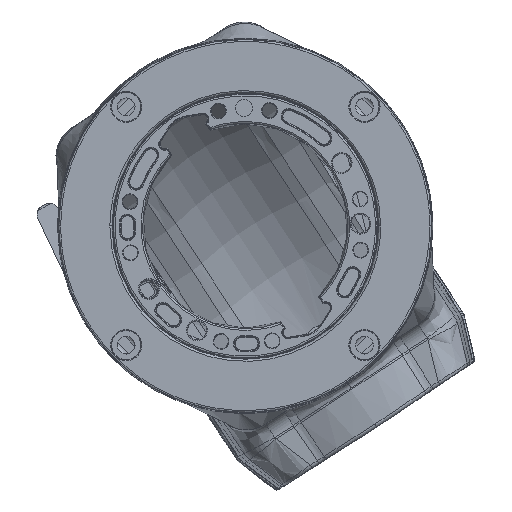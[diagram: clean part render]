
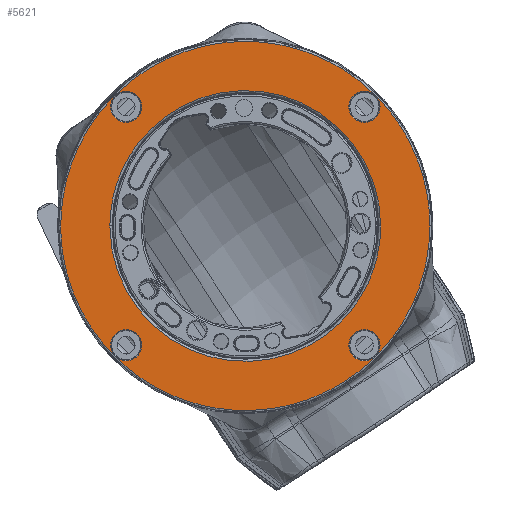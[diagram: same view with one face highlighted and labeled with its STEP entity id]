
A CAD part, front view. The second image highlights one B-rep face of the part: STEP entity #5621.
In plain terms, the highlighted planar face has unit normal (0, -1, 0) as drawn and (0, 0, -1) by its records, which use the part's own axes.
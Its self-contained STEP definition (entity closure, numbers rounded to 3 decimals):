
#1449 = VERTEX_POINT ( 'NONE', #121559 ) ;
#1726 = CARTESIAN_POINT ( 'NONE',  ( -21.848, 133.944, 101.629 ) ) ;
#3318 = EDGE_CURVE ( 'NONE', #173206, #169215, #125419, .T. ) ;
#5621 = ADVANCED_FACE ( 'NONE', ( #170793, #105255, #51802, #63829, #95445, #199800 ), #81402, .F. ) ;
#5900 = CARTESIAN_POINT ( 'NONE',  ( 90.151, 39.131, 101.629 ) ) ;
#6981 = CIRCLE ( 'NONE', #128412, 5.462 ) ;
#10896 = EDGE_CURVE ( 'NONE', #127500, #123771, #157605, .T. ) ;
#12541 = DIRECTION ( 'NONE',  ( 0., 0., -1. ) ) ;
#12699 = AXIS2_PLACEMENT_3D ( 'NONE', #163372, #70374, #56137 ) ;
#13189 = DIRECTION ( 'NONE',  ( -1., 0., 0. ) ) ;
#17118 = DIRECTION ( 'NONE',  ( 0., 0., 1. ) ) ;
#18229 = AXIS2_PLACEMENT_3D ( 'NONE', #78762, #17118, #187335 ) ;
#18939 = DIRECTION ( 'NONE',  ( 0., 0., -1. ) ) ;
#27063 = CARTESIAN_POINT ( 'NONE',  ( -21.848, -55.682, 101.629 ) ) ;
#31695 = CARTESIAN_POINT ( 'NONE',  ( 72.965, 39.131, 101.629 ) ) ;
#33394 = DIRECTION ( 'NONE',  ( 0., 0., -1. ) ) ;
#34546 = VERTEX_POINT ( 'NONE', #166533 ) ;
#41991 = ORIENTED_EDGE ( 'NONE', *, *, #110803, .F. ) ;
#42035 = DIRECTION ( 'NONE',  ( 0., 0., -1. ) ) ;
#48825 = ORIENTED_EDGE ( 'NONE', *, *, #10896, .F. ) ;
#51802 = FACE_BOUND ( 'NONE', #114794, .T. ) ;
#56137 = DIRECTION ( 'NONE',  ( -1., 0., 0. ) ) ;
#56530 = VERTEX_POINT ( 'NONE', #98559 ) ;
#57955 = ORIENTED_EDGE ( 'NONE', *, *, #109718, .F. ) ;
#59232 = VERTEX_POINT ( 'NONE', #144532 ) ;
#59699 = CARTESIAN_POINT ( 'NONE',  ( -39.035, 39.131, 101.629 ) ) ;
#63829 = FACE_BOUND ( 'NONE', #72147, .T. ) ;
#64667 = CARTESIAN_POINT ( 'NONE',  ( 72.965, 133.944, 101.629 ) ) ;
#64985 = DIRECTION ( 'NONE',  ( -1., 0., 0. ) ) ;
#69451 = VERTEX_POINT ( 'NONE', #140591 ) ;
#70374 = DIRECTION ( 'NONE',  ( 0., 0., -1. ) ) ;
#70789 = AXIS2_PLACEMENT_3D ( 'NONE', #134950, #42035, #121997 ) ;
#71605 = CARTESIAN_POINT ( 'NONE',  ( 90.151, 39.131, 101.629 ) ) ;
#72147 = EDGE_LOOP ( 'NONE', ( #166986, #134734 ) ) ;
#72659 = CARTESIAN_POINT ( 'NONE',  ( -39.035, 168.317, 101.629 ) ) ;
#75255 = CARTESIAN_POINT ( 'NONE',  ( 72.965, 39.131, 101.629 ) ) ;
#75578 = CIRCLE ( 'NONE', #95243, 5.462 ) ;
#78762 = CARTESIAN_POINT ( 'NONE',  ( -39.81, -26.237, 101.629 ) ) ;
#79618 = CARTESIAN_POINT ( 'NONE',  ( 72.965, 39.131, 101.629 ) ) ;
#79826 = CARTESIAN_POINT ( 'NONE',  ( -21.623, 80.85, 101.629 ) ) ;
#81402 = PLANE ( 'NONE',  #18229 ) ;
#81722 = EDGE_LOOP ( 'NONE', ( #187192, #111461 ) ) ;
#84115 = DIRECTION ( 'NONE',  ( -1., 0., 0. ) ) ;
#87761 = ORIENTED_EDGE ( 'NONE', *, *, #107635, .F. ) ;
#88214 = EDGE_LOOP ( 'NONE', ( #146674, #169625 ) ) ;
#91475 = CARTESIAN_POINT ( 'NONE',  ( -16.161, -2.588, 101.629 ) ) ;
#95243 = AXIS2_PLACEMENT_3D ( 'NONE', #124484, #126470, #84115 ) ;
#95445 = FACE_BOUND ( 'NONE', #81722, .T. ) ;
#98559 = CARTESIAN_POINT ( 'NONE',  ( -10.699, 80.85, 101.629 ) ) ;
#99920 = CIRCLE ( 'NONE', #101038, 5.462 ) ;
#101038 = AXIS2_PLACEMENT_3D ( 'NONE', #153456, #33394, #137879 ) ;
#104414 = EDGE_CURVE ( 'NONE', #160440, #192868, #180197, .T. ) ;
#105255 = FACE_BOUND ( 'NONE', #182928, .T. ) ;
#105933 = CARTESIAN_POINT ( 'NONE',  ( 90.151, 39.131, 101.629 ) ) ;
#107635 = EDGE_CURVE ( 'NONE', #34546, #1449, #185752, .T. ) ;
#108240 = CARTESIAN_POINT ( 'NONE',  ( -21.848, 39.131, 101.629 ) ) ;
#108877 = CARTESIAN_POINT ( 'NONE',  ( -39.035, 39.131, 101.629 ) ) ;
#109237 = CARTESIAN_POINT ( 'NONE',  ( 67.278, 80.85, 101.629 ) ) ;
#109718 = EDGE_CURVE ( 'NONE', #56530, #177118, #173467, .T. ) ;
#110803 = EDGE_CURVE ( 'NONE', #123771, #127500, #151163, .T. ) ;
#111461 = ORIENTED_EDGE ( 'NONE', *, *, #176518, .F. ) ;
#112252 = ORIENTED_EDGE ( 'NONE', *, *, #197979, .F. ) ;
#114794 = EDGE_LOOP ( 'NONE', ( #168087, #87761 ) ) ;
#118495 = CARTESIAN_POINT ( 'NONE',  ( 90.151, -90.055, 101.629 ) ) ;
#118786 =( BOUNDED_CURVE ( )  B_SPLINE_CURVE ( 3, ( #105933, #120857, #72659, #59699 ),
 .UNSPECIFIED., .F., .F. ) 
 B_SPLINE_CURVE_WITH_KNOTS ( ( 4, 4 ),
 ( 0., 1. ),
 .UNSPECIFIED. ) 
 CURVE ( )  GEOMETRIC_REPRESENTATION_ITEM ( )  RATIONAL_B_SPLINE_CURVE ( ( 0.957, 0.319, 0.319, 0.957 ) ) 
 REPRESENTATION_ITEM ( '' )  );
#120857 = CARTESIAN_POINT ( 'NONE',  ( 90.151, 168.317, 101.629 ) ) ;
#121559 = CARTESIAN_POINT ( 'NONE',  ( -21.623, -2.588, 101.629 ) ) ;
#121997 = DIRECTION ( 'NONE',  ( -1., 0., 0. ) ) ;
#122754 = CARTESIAN_POINT ( 'NONE',  ( 72.965, -55.682, 101.629 ) ) ;
#123771 = VERTEX_POINT ( 'NONE', #31695 ) ;
#124314 = EDGE_CURVE ( 'NONE', #59232, #69451, #140082, .T. ) ;
#124484 = CARTESIAN_POINT ( 'NONE',  ( -16.161, 80.85, 101.629 ) ) ;
#125419 =( BOUNDED_CURVE ( )  B_SPLINE_CURVE ( 3, ( #164613, #149740, #118495, #71605 ),
 .UNSPECIFIED., .F., .F. ) 
 B_SPLINE_CURVE_WITH_KNOTS ( ( 4, 4 ),
 ( 0., 1. ),
 .UNSPECIFIED. ) 
 CURVE ( )  GEOMETRIC_REPRESENTATION_ITEM ( )  RATIONAL_B_SPLINE_CURVE ( ( 0.957, 0.319, 0.319, 0.957 ) ) 
 REPRESENTATION_ITEM ( '' )  );
#125943 = EDGE_CURVE ( 'NONE', #1449, #34546, #6981, .T. ) ;
#126470 = DIRECTION ( 'NONE',  ( 0., 0., -1. ) ) ;
#127500 = VERTEX_POINT ( 'NONE', #131014 ) ;
#128412 = AXIS2_PLACEMENT_3D ( 'NONE', #91475, #185070, #170823 ) ;
#131014 = CARTESIAN_POINT ( 'NONE',  ( -21.848, 39.131, 101.629 ) ) ;
#133507 = CARTESIAN_POINT ( 'NONE',  ( 61.816, -2.588, 101.629 ) ) ;
#134734 = ORIENTED_EDGE ( 'NONE', *, *, #169096, .F. ) ;
#134950 = CARTESIAN_POINT ( 'NONE',  ( -16.161, -2.588, 101.629 ) ) ;
#137879 = DIRECTION ( 'NONE',  ( -1., 0., 0. ) ) ;
#140082 = CIRCLE ( 'NONE', #146640, 5.462 ) ;
#140591 = CARTESIAN_POINT ( 'NONE',  ( 72.739, 80.85, 101.629 ) ) ;
#144492 = AXIS2_PLACEMENT_3D ( 'NONE', #166013, #182262, #199168 ) ;
#144532 = CARTESIAN_POINT ( 'NONE',  ( 61.816, 80.85, 101.629 ) ) ;
#144681 = AXIS2_PLACEMENT_3D ( 'NONE', #168447, #12541, #13189 ) ;
#146640 = AXIS2_PLACEMENT_3D ( 'NONE', #109237, #18939, #64985 ) ;
#146674 = ORIENTED_EDGE ( 'NONE', *, *, #148708, .F. ) ;
#148708 = EDGE_CURVE ( 'NONE', #169215, #173206, #118786, .T. ) ;
#149740 = CARTESIAN_POINT ( 'NONE',  ( -39.035, -90.055, 101.629 ) ) ;
#149876 = CARTESIAN_POINT ( 'NONE',  ( -21.848, 39.131, 101.629 ) ) ;
#151163 =( BOUNDED_CURVE ( )  B_SPLINE_CURVE ( 3, ( #75255, #122754, #27063, #149876 ),
 .UNSPECIFIED., .F., .T. ) 
 B_SPLINE_CURVE_WITH_KNOTS ( ( 4, 4 ),
 ( 0., 1. ),
 .UNSPECIFIED. ) 
 CURVE ( )  GEOMETRIC_REPRESENTATION_ITEM ( )  RATIONAL_B_SPLINE_CURVE ( ( 0.957, 0.319, 0.319, 0.957 ) ) 
 REPRESENTATION_ITEM ( '' )  );
#153456 = CARTESIAN_POINT ( 'NONE',  ( 67.278, 80.85, 101.629 ) ) ;
#157605 =( BOUNDED_CURVE ( )  B_SPLINE_CURVE ( 3, ( #108240, #1726, #64667, #79618 ),
 .UNSPECIFIED., .F., .T. ) 
 B_SPLINE_CURVE_WITH_KNOTS ( ( 4, 4 ),
 ( 0., 1. ),
 .UNSPECIFIED. ) 
 CURVE ( )  GEOMETRIC_REPRESENTATION_ITEM ( )  RATIONAL_B_SPLINE_CURVE ( ( 0.957, 0.319, 0.319, 0.957 ) ) 
 REPRESENTATION_ITEM ( '' )  );
#158237 = CARTESIAN_POINT ( 'NONE',  ( 72.739, -2.588, 101.629 ) ) ;
#160440 = VERTEX_POINT ( 'NONE', #133507 ) ;
#163372 = CARTESIAN_POINT ( 'NONE',  ( -16.161, 80.85, 101.629 ) ) ;
#164216 = CIRCLE ( 'NONE', #144681, 5.462 ) ;
#164613 = CARTESIAN_POINT ( 'NONE',  ( -39.035, 39.131, 101.629 ) ) ;
#166013 = CARTESIAN_POINT ( 'NONE',  ( 67.278, -2.588, 101.629 ) ) ;
#166533 = CARTESIAN_POINT ( 'NONE',  ( -10.699, -2.588, 101.629 ) ) ;
#166986 = ORIENTED_EDGE ( 'NONE', *, *, #104414, .F. ) ;
#168087 = ORIENTED_EDGE ( 'NONE', *, *, #125943, .F. ) ;
#168447 = CARTESIAN_POINT ( 'NONE',  ( 67.278, -2.588, 101.629 ) ) ;
#169096 = EDGE_CURVE ( 'NONE', #192868, #160440, #164216, .T. ) ;
#169215 = VERTEX_POINT ( 'NONE', #5900 ) ;
#169625 = ORIENTED_EDGE ( 'NONE', *, *, #3318, .F. ) ;
#170793 = FACE_BOUND ( 'NONE', #175531, .T. ) ;
#170823 = DIRECTION ( 'NONE',  ( -1., 0., 0. ) ) ;
#173206 = VERTEX_POINT ( 'NONE', #108877 ) ;
#173467 = CIRCLE ( 'NONE', #12699, 5.462 ) ;
#175531 = EDGE_LOOP ( 'NONE', ( #41991, #48825 ) ) ;
#176518 = EDGE_CURVE ( 'NONE', #69451, #59232, #99920, .T. ) ;
#177118 = VERTEX_POINT ( 'NONE', #79826 ) ;
#180197 = CIRCLE ( 'NONE', #144492, 5.462 ) ;
#182262 = DIRECTION ( 'NONE',  ( 0., 0., -1. ) ) ;
#182928 = EDGE_LOOP ( 'NONE', ( #112252, #57955 ) ) ;
#185070 = DIRECTION ( 'NONE',  ( 0., 0., -1. ) ) ;
#185752 = CIRCLE ( 'NONE', #70789, 5.462 ) ;
#187192 = ORIENTED_EDGE ( 'NONE', *, *, #124314, .F. ) ;
#187335 = DIRECTION ( 'NONE',  ( 1., 0., 0. ) ) ;
#192868 = VERTEX_POINT ( 'NONE', #158237 ) ;
#197979 = EDGE_CURVE ( 'NONE', #177118, #56530, #75578, .T. ) ;
#199168 = DIRECTION ( 'NONE',  ( -1., 0., 0. ) ) ;
#199800 = FACE_OUTER_BOUND ( 'NONE', #88214, .T. ) ;
